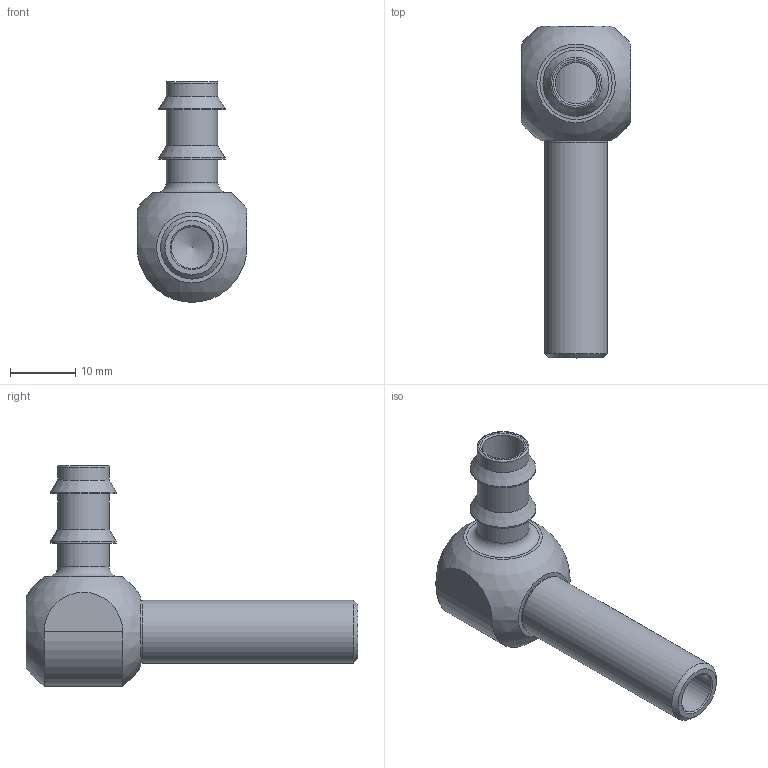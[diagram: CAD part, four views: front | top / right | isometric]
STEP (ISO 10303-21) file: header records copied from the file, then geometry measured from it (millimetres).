
FILE_DESCRIPTION(/* description */ (''),/* implementation_level */ '2;1');
FILE_NAME(/* name */ 'C:/Users/drich/Desktop/WJ18-M v1.step',/* time_stamp */ '2019-12-29T15:35:07-06:00',/* author */ (''),/* organization */ (''),/* preprocessor_version */ 'ST-DEVELOPER v18',/* originating_system */ 'Autodesk Translation Framework v8.12.0.6',/* authorisation */ '');
FILE_SCHEMA (('AUTOMOTIVE_DESIGN { 1 0 10303 214 3 1 1 }'));
Length unit declared in the file: inch
Products named in the file (2): WJ18-M; WJ18-M SHAFT
Assembly tree (1 placements, depth 2):
  WJ18-M
    WJ18-M SHAFT
Bounding box: 16.76 x 50.8 x 33.78 mm (x, y, z)
Volume: 5683 mm3; surface area: 4623.6 mm2
Topology: 2 solids, 2 shells, 38 faces, 99 edges, 72 vertices
Faces by surface type: plane 18, cylinder 11, cone 5, torus 3, sphere 1
Full cylindrical faces by diameter (mm): 6.35 x2, 7.925 x3, 9.525 x2, 9.621 x1, 10.109 x2
Entity records: 1324 total; most frequent: CARTESIAN_POINT 245, DIRECTION 239, ORIENTED_EDGE 196, AXIS2_PLACEMENT_3D 102, EDGE_CURVE 98, VERTEX_POINT 72, CIRCLE 61, EDGE_LOOP 50
